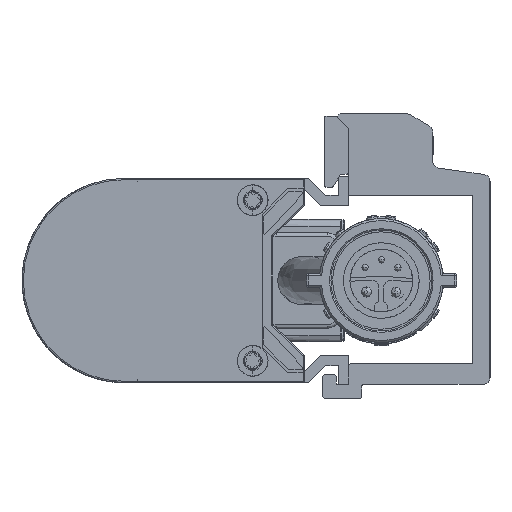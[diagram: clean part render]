
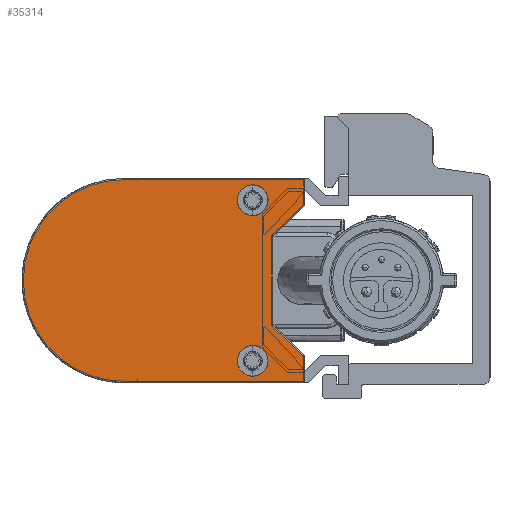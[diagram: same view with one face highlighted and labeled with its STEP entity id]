
A CAD part, left-side view. The second image highlights one B-rep face of the part: STEP entity #35314.
In plain terms, the highlighted planar face has unit normal (-1, 0, 0).
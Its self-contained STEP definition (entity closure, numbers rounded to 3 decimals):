
#98 = ORIENTED_EDGE ( 'NONE', *, *, #38236, .F. ) ;
#635 = ORIENTED_EDGE ( 'NONE', *, *, #31169, .T. ) ;
#1508 = EDGE_CURVE ( 'NONE', #21473, #10278, #49217, .T. ) ;
#1535 = CARTESIAN_POINT ( 'NONE',  ( -600., 14.134, 9.55 ) ) ;
#2414 = EDGE_CURVE ( 'NONE', #15709, #35457, #20334, .T. ) ;
#3101 = ORIENTED_EDGE ( 'NONE', *, *, #29546, .T. ) ;
#3985 = AXIS2_PLACEMENT_3D ( 'NONE', #38465, #64331, #24345 ) ;
#4958 = CARTESIAN_POINT ( 'NONE',  ( -600., 14.134, -9.55 ) ) ;
#6070 = DIRECTION ( 'NONE',  ( 0., 1., 0. ) ) ;
#7094 = LINE ( 'NONE', #46725, #28127 ) ;
#8063 = CARTESIAN_POINT ( 'NONE',  ( -600., 11.399, -6.415 ) ) ;
#8932 = CARTESIAN_POINT ( 'NONE',  ( -600., 6.7, -14.8 ) ) ;
#9166 = CARTESIAN_POINT ( 'NONE',  ( -600., 11.278, -6.703 ) ) ;
#10064 = ORIENTED_EDGE ( 'NONE', *, *, #53306, .F. ) ;
#10088 = PLANE ( 'NONE',  #62328 ) ;
#10278 = VERTEX_POINT ( 'NONE', #8932 ) ;
#10621 = CARTESIAN_POINT ( 'NONE',  ( -600., 14.134, -11.8 ) ) ;
#10935 = CARTESIAN_POINT ( 'NONE',  ( -600., 33., -14.8 ) ) ;
#11172 = VERTEX_POINT ( 'NONE', #12944 ) ;
#11543 = ORIENTED_EDGE ( 'NONE', *, *, #64270, .F. ) ;
#11561 = LINE ( 'NONE', #15796, #15843 ) ;
#12235 = VERTEX_POINT ( 'NONE', #25751 ) ;
#12944 = CARTESIAN_POINT ( 'NONE',  ( -600., 14.134, -14.05 ) ) ;
#13146 = DIRECTION ( 'NONE',  ( -1., 0., 0. ) ) ;
#13446 = FACE_BOUND ( 'NONE', #51659, .T. ) ;
#14054 = EDGE_CURVE ( 'NONE', #52426, #48396, #35925, .T. ) ;
#14076 = VECTOR ( 'NONE', #6070, 1000. ) ;
#14110 = FACE_BOUND ( 'NONE', #48785, .T. ) ;
#14621 = CARTESIAN_POINT ( 'NONE',  ( -600., 11.278, 6.703 ) ) ;
#15058 = DIRECTION ( 'NONE',  ( 0., 0., 1. ) ) ;
#15709 = VERTEX_POINT ( 'NONE', #9166 ) ;
#15796 = CARTESIAN_POINT ( 'NONE',  ( -600., 6.7, 11.135 ) ) ;
#15843 = VECTOR ( 'NONE', #51590, 1000. ) ;
#16765 = VERTEX_POINT ( 'NONE', #1535 ) ;
#16812 = DIRECTION ( 'NONE',  ( -1., 0., 0. ) ) ;
#18042 = ORIENTED_EDGE ( 'NONE', *, *, #36093, .F. ) ;
#18996 = CIRCLE ( 'NONE', #32716, 2.25 ) ;
#19466 = ORIENTED_EDGE ( 'NONE', *, *, #64575, .F. ) ;
#19631 = ORIENTED_EDGE ( 'NONE', *, *, #14054, .T. ) ;
#19689 = CARTESIAN_POINT ( 'NONE',  ( -600., 6.7, -14.8 ) ) ;
#20334 = LINE ( 'NONE', #50857, #63942 ) ;
#21473 = VERTEX_POINT ( 'NONE', #10935 ) ;
#21671 = AXIS2_PLACEMENT_3D ( 'NONE', #10621, #16812, #31633 ) ;
#23337 = CARTESIAN_POINT ( 'NONE',  ( -600., 33., -14.8 ) ) ;
#23654 = DIRECTION ( 'NONE',  ( 1., 0., 0. ) ) ;
#24055 = CARTESIAN_POINT ( 'NONE',  ( -600., 14.134, 11.8 ) ) ;
#24248 = AXIS2_PLACEMENT_3D ( 'NONE', #24055, #49641, #28346 ) ;
#24345 = DIRECTION ( 'NONE',  ( 0., 0., -1. ) ) ;
#24987 = AXIS2_PLACEMENT_3D ( 'NONE', #63850, #62909, #29103 ) ;
#25751 = CARTESIAN_POINT ( 'NONE',  ( -600., 6.7, 11.135 ) ) ;
#25864 = ORIENTED_EDGE ( 'NONE', *, *, #50042, .F. ) ;
#25917 = CIRCLE ( 'NONE', #21671, 2.25 ) ;
#26043 = CIRCLE ( 'NONE', #24987, 0.4 ) ;
#26067 = CARTESIAN_POINT ( 'NONE',  ( -600., 6.7, 14.8 ) ) ;
#26275 = DIRECTION ( 'NONE',  ( 0., -0.718, -0.696 ) ) ;
#28127 = VECTOR ( 'NONE', #37583, 1000. ) ;
#28346 = DIRECTION ( 'NONE',  ( 0., 0., -1. ) ) ;
#29103 = DIRECTION ( 'NONE',  ( 0., 1., 0. ) ) ;
#29546 = EDGE_CURVE ( 'NONE', #61579, #44537, #33021, .T. ) ;
#30651 = VECTOR ( 'NONE', #38552, 1000. ) ;
#31169 = EDGE_CURVE ( 'NONE', #10278, #35457, #63671, .T. ) ;
#31508 = VECTOR ( 'NONE', #39067, 1000. ) ;
#31633 = DIRECTION ( 'NONE',  ( 0., 0., 1. ) ) ;
#32716 = AXIS2_PLACEMENT_3D ( 'NONE', #45572, #36118, #15058 ) ;
#32883 = CARTESIAN_POINT ( 'NONE',  ( -600., 33., 14.8 ) ) ;
#33021 = LINE ( 'NONE', #8063, #30651 ) ;
#33463 = EDGE_LOOP ( 'NONE', ( #10064, #37452, #19631, #25864, #44817, #635, #48089, #58586, #3101, #18042 ) ) ;
#34015 = CIRCLE ( 'NONE', #43367, 0.4 ) ;
#35314 = ADVANCED_FACE ( 'NONE', ( #13446, #14110, #63040 ), #10088, .T. ) ;
#35457 = VERTEX_POINT ( 'NONE', #44118 ) ;
#35925 = LINE ( 'NONE', #26067, #14076 ) ;
#36093 = EDGE_CURVE ( 'NONE', #45549, #44537, #34015, .T. ) ;
#36118 = DIRECTION ( 'NONE',  ( -1., 0., 0. ) ) ;
#36870 = CIRCLE ( 'NONE', #24248, 2.25 ) ;
#37452 = ORIENTED_EDGE ( 'NONE', *, *, #48173, .T. ) ;
#37583 = DIRECTION ( 'NONE',  ( 0., 0., 1. ) ) ;
#38236 = EDGE_CURVE ( 'NONE', #11172, #64509, #41628, .T. ) ;
#38465 = CARTESIAN_POINT ( 'NONE',  ( -600., 14.134, -11.8 ) ) ;
#38552 = DIRECTION ( 'NONE',  ( 0., 0., 1. ) ) ;
#38747 = DIRECTION ( 'NONE',  ( 0., 0., -1. ) ) ;
#39024 = CARTESIAN_POINT ( 'NONE',  ( -600., 11.399, 6.415 ) ) ;
#39067 = DIRECTION ( 'NONE',  ( 0., -1., 0. ) ) ;
#39346 = ORIENTED_EDGE ( 'NONE', *, *, #60936, .F. ) ;
#39793 = EDGE_CURVE ( 'NONE', #61579, #15709, #26043, .T. ) ;
#41628 = CIRCLE ( 'NONE', #3985, 2.25 ) ;
#42505 = VERTEX_POINT ( 'NONE', #52663 ) ;
#43367 = AXIS2_PLACEMENT_3D ( 'NONE', #48908, #58771, #59398 ) ;
#43627 = DIRECTION ( 'NONE',  ( 0., 0., 1. ) ) ;
#44118 = CARTESIAN_POINT ( 'NONE',  ( -600., 6.7, -11.135 ) ) ;
#44537 = VERTEX_POINT ( 'NONE', #39024 ) ;
#44817 = ORIENTED_EDGE ( 'NONE', *, *, #1508, .T. ) ;
#45549 = VERTEX_POINT ( 'NONE', #14621 ) ;
#45572 = CARTESIAN_POINT ( 'NONE',  ( -600., 14.134, 11.8 ) ) ;
#46725 = CARTESIAN_POINT ( 'NONE',  ( -600., 6.7, 11.135 ) ) ;
#47621 = CARTESIAN_POINT ( 'NONE',  ( -600., 33., 0. ) ) ;
#48089 = ORIENTED_EDGE ( 'NONE', *, *, #2414, .F. ) ;
#48173 = EDGE_CURVE ( 'NONE', #12235, #52426, #7094, .T. ) ;
#48396 = VERTEX_POINT ( 'NONE', #32883 ) ;
#48785 = EDGE_LOOP ( 'NONE', ( #39346, #98 ) ) ;
#48895 = CARTESIAN_POINT ( 'NONE',  ( -600., 27.25, 0. ) ) ;
#48908 = CARTESIAN_POINT ( 'NONE',  ( -600., 10.999, 6.415 ) ) ;
#49217 = LINE ( 'NONE', #23337, #31508 ) ;
#49641 = DIRECTION ( 'NONE',  ( -1., 0., 0. ) ) ;
#50042 = EDGE_CURVE ( 'NONE', #21473, #48396, #64125, .T. ) ;
#50857 = CARTESIAN_POINT ( 'NONE',  ( -600., 11.278, -6.703 ) ) ;
#51590 = DIRECTION ( 'NONE',  ( 0., 0.718, -0.696 ) ) ;
#51659 = EDGE_LOOP ( 'NONE', ( #19466, #11543 ) ) ;
#52426 = VERTEX_POINT ( 'NONE', #56098 ) ;
#52663 = CARTESIAN_POINT ( 'NONE',  ( -600., 14.134, 14.05 ) ) ;
#53306 = EDGE_CURVE ( 'NONE', #12235, #45549, #11561, .T. ) ;
#55768 = AXIS2_PLACEMENT_3D ( 'NONE', #47621, #23654, #38747 ) ;
#56098 = CARTESIAN_POINT ( 'NONE',  ( -600., 6.7, 14.8 ) ) ;
#58586 = ORIENTED_EDGE ( 'NONE', *, *, #39793, .F. ) ;
#58771 = DIRECTION ( 'NONE',  ( -1., 0., 0. ) ) ;
#59398 = DIRECTION ( 'NONE',  ( 0., 0.696, 0.718 ) ) ;
#59732 = DIRECTION ( 'NONE',  ( 0., 0., 1. ) ) ;
#60643 = CARTESIAN_POINT ( 'NONE',  ( -600., 11.399, -6.415 ) ) ;
#60936 = EDGE_CURVE ( 'NONE', #64509, #11172, #25917, .T. ) ;
#61579 = VERTEX_POINT ( 'NONE', #60643 ) ;
#62328 = AXIS2_PLACEMENT_3D ( 'NONE', #48895, #13146, #43627 ) ;
#62909 = DIRECTION ( 'NONE',  ( -1., 0., 0. ) ) ;
#63040 = FACE_OUTER_BOUND ( 'NONE', #33463, .T. ) ;
#63671 = LINE ( 'NONE', #19689, #64355 ) ;
#63850 = CARTESIAN_POINT ( 'NONE',  ( -600., 10.999, -6.415 ) ) ;
#63942 = VECTOR ( 'NONE', #26275, 1000. ) ;
#64125 = CIRCLE ( 'NONE', #55768, 14.8 ) ;
#64270 = EDGE_CURVE ( 'NONE', #16765, #42505, #36870, .T. ) ;
#64331 = DIRECTION ( 'NONE',  ( -1., 0., 0. ) ) ;
#64355 = VECTOR ( 'NONE', #59732, 1000. ) ;
#64509 = VERTEX_POINT ( 'NONE', #4958 ) ;
#64575 = EDGE_CURVE ( 'NONE', #42505, #16765, #18996, .T. ) ;
